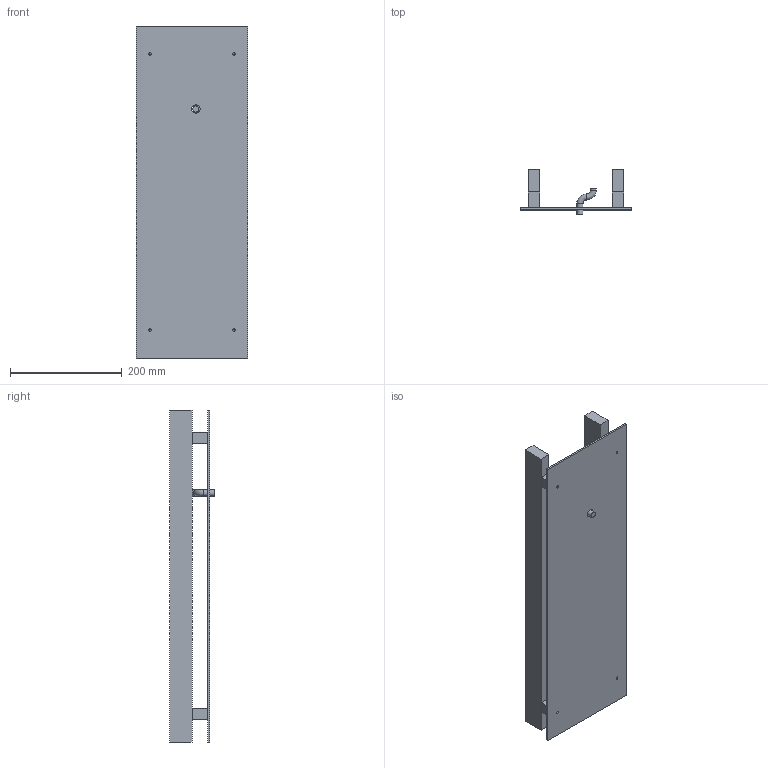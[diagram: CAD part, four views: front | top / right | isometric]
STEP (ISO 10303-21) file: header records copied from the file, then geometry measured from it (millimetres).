
FILE_DESCRIPTION(('Open CASCADE Model'),'2;1');
FILE_NAME('Open CASCADE Shape Model','2026-11-14T16:01:31',('Author'),( 'Open CASCADE'),'Open CASCADE STEP processor 7.9','Open CASCADE 7.9' ,'Unknown');
FILE_SCHEMA(('AUTOMOTIVE_DESIGN { 1 0 10303 214 1 1 1 1 }'));
Length unit declared in the file: millimetre
Products named in the file (9): Open CASCADE STEP translator 7.9 81; Open CASCADE STEP translator 7.9 81.1; Open CASCADE STEP translator 7.9 81.2; Open CASCADE STEP translator 7.9 81.3; Open CASCADE STEP translator 7.9 81.4; Open CASCADE STEP translator 7.9 81.5; Open CASCADE STEP translator 7.9 81.6; Open CASCADE STEP translator 7.9 81.7; Open CASCADE STEP translator 7.9 81.8
Assembly tree (8 placements, depth 2):
  Open CASCADE STEP translator 7.9 81
    Open CASCADE STEP translator 7.9 81.1
    Open CASCADE STEP translator 7.9 81.2
    Open CASCADE STEP translator 7.9 81.3
    Open CASCADE STEP translator 7.9 81.4
    Open CASCADE STEP translator 7.9 81.5
    Open CASCADE STEP translator 7.9 81.6
    Open CASCADE STEP translator 7.9 81.7
    Open CASCADE STEP translator 7.9 81.8
Bounding box: 200 x 80 x 594 mm (x, y, z)
Volume: 1473359.3 mm3; surface area: 405525.6 mm2
Topology: 8 solids, 8 shells, 57 faces, 120 edges, 79 vertices
Faces by surface type: plane 44, cylinder 11, torus 2
Full cylindrical faces by diameter (mm): 4.5 x8, 11 x2, 15 x1
Entity records: 3244 total; most frequent: CARTESIAN_POINT 512, DIRECTION 510, LINE 308, VECTOR 308, ORIENTED_EDGE 240, PCURVE 240, DEFINITIONAL_REPRESENTATION 240, EDGE_CURVE 120
